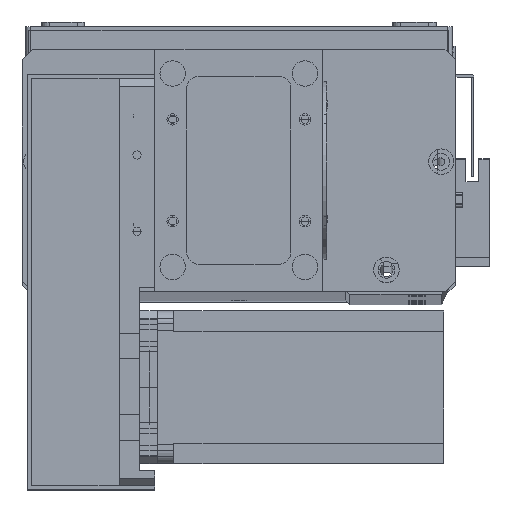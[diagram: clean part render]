
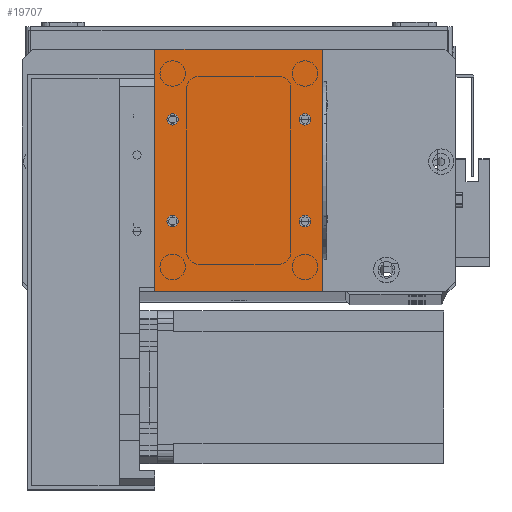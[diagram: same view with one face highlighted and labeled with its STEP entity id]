
A CAD part, top view. The second image highlights one B-rep face of the part: STEP entity #19707.
In plain terms, the highlighted planar face has unit normal (0, 0, 1).
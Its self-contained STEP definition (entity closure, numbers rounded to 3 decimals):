
#22 = CARTESIAN_POINT ( 'NONE',  ( 0., 0., 2. ) ) ;
#327 = DIRECTION ( 'NONE',  ( 0., 0., 1. ) ) ;
#955 = DIRECTION ( 'NONE',  ( 0., 0., 1. ) ) ;
#1386 = LINE ( 'NONE', #4649, #28130 ) ;
#2245 = LINE ( 'NONE', #24456, #29011 ) ;
#2277 = EDGE_CURVE ( 'NONE', #16774, #27921, #16217, .T. ) ;
#2289 = DIRECTION ( 'NONE',  ( 0., 0., 1. ) ) ;
#2531 = ORIENTED_EDGE ( 'NONE', *, *, #13737, .F. ) ;
#2536 = CARTESIAN_POINT ( 'NONE',  ( 59., 67.5, 2. ) ) ;
#2833 = CARTESIAN_POINT ( 'NONE',  ( 7., 67.5, 2. ) ) ;
#3773 = CARTESIAN_POINT ( 'NONE',  ( 56.75, 67.5, 2. ) ) ;
#3828 = PLANE ( 'NONE',  #26834 ) ;
#3944 = ORIENTED_EDGE ( 'NONE', *, *, #10445, .T. ) ;
#4265 = LINE ( 'NONE', #16586, #10320 ) ;
#4649 = CARTESIAN_POINT ( 'NONE',  ( 66., 0., 2. ) ) ;
#4768 = AXIS2_PLACEMENT_3D ( 'NONE', #26895, #11351, #29495 ) ;
#5139 = DIRECTION ( 'NONE',  ( 1., 0., 0. ) ) ;
#5433 = DIRECTION ( 'NONE',  ( 1., 0., 0. ) ) ;
#6102 = VERTEX_POINT ( 'NONE', #8506 ) ;
#6201 = VERTEX_POINT ( 'NONE', #3773 ) ;
#6649 = CARTESIAN_POINT ( 'NONE',  ( 0., 0., 2. ) ) ;
#7197 = CARTESIAN_POINT ( 'NONE',  ( 59., 27.5, 2. ) ) ;
#7460 = ORIENTED_EDGE ( 'NONE', *, *, #24488, .F. ) ;
#7852 = FACE_OUTER_BOUND ( 'NONE', #18747, .T. ) ;
#7930 = CARTESIAN_POINT ( 'NONE',  ( 66., 95., 2. ) ) ;
#7997 = CARTESIAN_POINT ( 'NONE',  ( 0., 95., 2. ) ) ;
#8238 = VERTEX_POINT ( 'NONE', #14397 ) ;
#8396 = ORIENTED_EDGE ( 'NONE', *, *, #31742, .F. ) ;
#8506 = CARTESIAN_POINT ( 'NONE',  ( 66., 0., 2. ) ) ;
#8673 = FACE_BOUND ( 'NONE', #15207, .T. ) ;
#9028 = DIRECTION ( 'NONE',  ( 0., 0., -1. ) ) ;
#9046 = ORIENTED_EDGE ( 'NONE', *, *, #24478, .F. ) ;
#9753 = ORIENTED_EDGE ( 'NONE', *, *, #24076, .F. ) ;
#9781 = DIRECTION ( 'NONE',  ( 0., 0., 1. ) ) ;
#9806 = DIRECTION ( 'NONE',  ( 1., 0., 0. ) ) ;
#9978 = CARTESIAN_POINT ( 'NONE',  ( 61.25, 67.5, 2. ) ) ;
#10320 = VECTOR ( 'NONE', #21822, 1000. ) ;
#10445 = EDGE_CURVE ( 'NONE', #6102, #12664, #1386, .T. ) ;
#10542 = AXIS2_PLACEMENT_3D ( 'NONE', #17793, #2289, #20405 ) ;
#11351 = DIRECTION ( 'NONE',  ( 0., 0., 1. ) ) ;
#11380 = VERTEX_POINT ( 'NONE', #7997 ) ;
#12664 = VERTEX_POINT ( 'NONE', #7930 ) ;
#12794 = CIRCLE ( 'NONE', #18008, 2.25 ) ;
#13022 = ORIENTED_EDGE ( 'NONE', *, *, #30316, .T. ) ;
#13737 = EDGE_CURVE ( 'NONE', #29323, #6201, #23476, .T. ) ;
#14102 = DIRECTION ( 'NONE',  ( -1., 0., 0. ) ) ;
#14397 = CARTESIAN_POINT ( 'NONE',  ( 4.75, 67.5, 2. ) ) ;
#14715 = FACE_BOUND ( 'NONE', #14830, .T. ) ;
#14830 = EDGE_LOOP ( 'NONE', ( #7460, #22013 ) ) ;
#15176 = AXIS2_PLACEMENT_3D ( 'NONE', #16453, #955, #19084 ) ;
#15207 = EDGE_LOOP ( 'NONE', ( #9753, #9046 ) ) ;
#15533 = FACE_BOUND ( 'NONE', #25382, .T. ) ;
#15594 = ORIENTED_EDGE ( 'NONE', *, *, #33269, .F. ) ;
#15830 = CARTESIAN_POINT ( 'NONE',  ( 7., 27.5, 2. ) ) ;
#16217 = CIRCLE ( 'NONE', #30867, 2.25 ) ;
#16453 = CARTESIAN_POINT ( 'NONE',  ( 59., 27.5, 2. ) ) ;
#16499 = VERTEX_POINT ( 'NONE', #18137 ) ;
#16586 = CARTESIAN_POINT ( 'NONE',  ( 0., 0., 2. ) ) ;
#16774 = VERTEX_POINT ( 'NONE', #29585 ) ;
#17793 = CARTESIAN_POINT ( 'NONE',  ( 7., 27.5, 2. ) ) ;
#18008 = AXIS2_PLACEMENT_3D ( 'NONE', #15830, #327, #18456 ) ;
#18137 = CARTESIAN_POINT ( 'NONE',  ( 4.75, 27.5, 2. ) ) ;
#18163 = DIRECTION ( 'NONE',  ( 0., -1., 0. ) ) ;
#18273 = ORIENTED_EDGE ( 'NONE', *, *, #25375, .T. ) ;
#18456 = DIRECTION ( 'NONE',  ( 1., 0., 0. ) ) ;
#18747 = EDGE_LOOP ( 'NONE', ( #20291, #18273, #3944, #13022 ) ) ;
#19084 = DIRECTION ( 'NONE',  ( 1., 0., 0. ) ) ;
#19707 = ADVANCED_FACE ( 'NONE', ( #8673, #15533, #21641, #14715, #7852 ), #3828, .F. ) ;
#20291 = ORIENTED_EDGE ( 'NONE', *, *, #31750, .T. ) ;
#20405 = DIRECTION ( 'NONE',  ( 1., 0., 0. ) ) ;
#20636 = DIRECTION ( 'NONE',  ( 0., 0., 1. ) ) ;
#20928 = DIRECTION ( 'NONE',  ( 0., 0., 1. ) ) ;
#21277 = CARTESIAN_POINT ( 'NONE',  ( 56.75, 27.5, 2. ) ) ;
#21483 = AXIS2_PLACEMENT_3D ( 'NONE', #2833, #20928, #5433 ) ;
#21641 = FACE_BOUND ( 'NONE', #23342, .T. ) ;
#21822 = DIRECTION ( 'NONE',  ( 1., 0., 0. ) ) ;
#22008 = VECTOR ( 'NONE', #18163, 1000. ) ;
#22013 = ORIENTED_EDGE ( 'NONE', *, *, #29335, .F. ) ;
#22759 = AXIS2_PLACEMENT_3D ( 'NONE', #2536, #20636, #5139 ) ;
#22823 = CIRCLE ( 'NONE', #22759, 2.25 ) ;
#22960 = VERTEX_POINT ( 'NONE', #6649 ) ;
#23272 = VERTEX_POINT ( 'NONE', #25830 ) ;
#23342 = EDGE_LOOP ( 'NONE', ( #29976, #15594 ) ) ;
#23476 = CIRCLE ( 'NONE', #32368, 2.25 ) ;
#24076 = EDGE_CURVE ( 'NONE', #23272, #8238, #30280, .T. ) ;
#24456 = CARTESIAN_POINT ( 'NONE',  ( 0., 95., 2. ) ) ;
#24478 = EDGE_CURVE ( 'NONE', #8238, #23272, #33477, .T. ) ;
#24488 = EDGE_CURVE ( 'NONE', #25697, #16499, #12794, .T. ) ;
#24554 = CARTESIAN_POINT ( 'NONE',  ( 0., 0., 2. ) ) ;
#25344 = CARTESIAN_POINT ( 'NONE',  ( 59., 67.5, 2. ) ) ;
#25370 = DIRECTION ( 'NONE',  ( 0., 0., 1. ) ) ;
#25375 = EDGE_CURVE ( 'NONE', #22960, #6102, #4265, .T. ) ;
#25382 = EDGE_LOOP ( 'NONE', ( #2531, #8396 ) ) ;
#25697 = VERTEX_POINT ( 'NONE', #29060 ) ;
#25830 = CARTESIAN_POINT ( 'NONE',  ( 9.25, 67.5, 2. ) ) ;
#26834 = AXIS2_PLACEMENT_3D ( 'NONE', #24554, #9028, #27165 ) ;
#26895 = CARTESIAN_POINT ( 'NONE',  ( 7., 67.5, 2. ) ) ;
#27165 = DIRECTION ( 'NONE',  ( -1., 0., 0. ) ) ;
#27921 = VERTEX_POINT ( 'NONE', #21277 ) ;
#27925 = DIRECTION ( 'NONE',  ( 1., 0., 0. ) ) ;
#28130 = VECTOR ( 'NONE', #30580, 1000. ) ;
#28911 = LINE ( 'NONE', #22, #22008 ) ;
#29011 = VECTOR ( 'NONE', #14102, 1000. ) ;
#29060 = CARTESIAN_POINT ( 'NONE',  ( 9.25, 27.5, 2. ) ) ;
#29323 = VERTEX_POINT ( 'NONE', #9978 ) ;
#29335 = EDGE_CURVE ( 'NONE', #16499, #25697, #31495, .T. ) ;
#29495 = DIRECTION ( 'NONE',  ( 1., 0., 0. ) ) ;
#29585 = CARTESIAN_POINT ( 'NONE',  ( 61.25, 27.5, 2. ) ) ;
#29976 = ORIENTED_EDGE ( 'NONE', *, *, #2277, .F. ) ;
#30017 = CIRCLE ( 'NONE', #15176, 2.25 ) ;
#30280 = CIRCLE ( 'NONE', #4768, 2.25 ) ;
#30316 = EDGE_CURVE ( 'NONE', #12664, #11380, #2245, .T. ) ;
#30580 = DIRECTION ( 'NONE',  ( 0., 1., 0. ) ) ;
#30867 = AXIS2_PLACEMENT_3D ( 'NONE', #7197, #25370, #9806 ) ;
#31495 = CIRCLE ( 'NONE', #10542, 2.25 ) ;
#31742 = EDGE_CURVE ( 'NONE', #6201, #29323, #22823, .T. ) ;
#31750 = EDGE_CURVE ( 'NONE', #11380, #22960, #28911, .T. ) ;
#32368 = AXIS2_PLACEMENT_3D ( 'NONE', #25344, #9781, #27925 ) ;
#33269 = EDGE_CURVE ( 'NONE', #27921, #16774, #30017, .T. ) ;
#33477 = CIRCLE ( 'NONE', #21483, 2.25 ) ;
